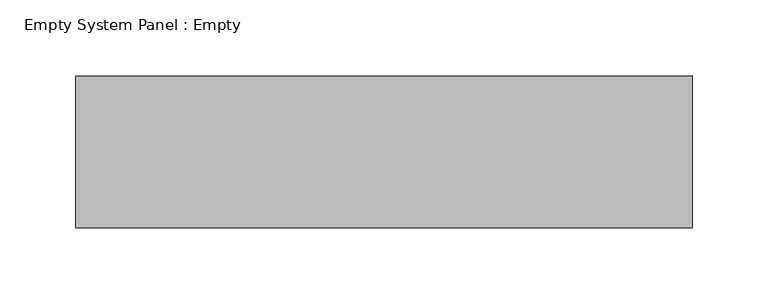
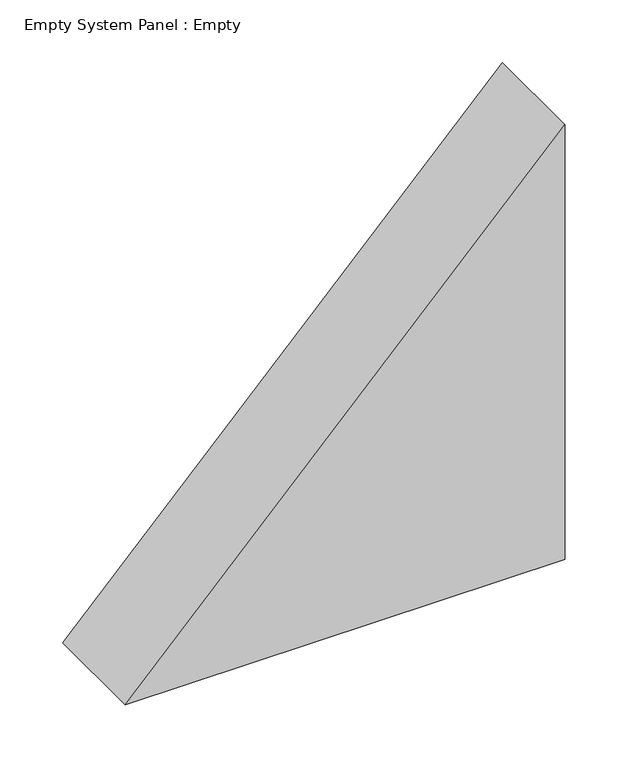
"""IFC4 building model written with IfcOpenShell, lengths in millimetres: plate geometry, Empty System Panel : Empty."""

from ifc_helpers import new_model, si_unit, frame, origin, place, context, project, spatial, polyline, outline, extrude, source, transform, mapped, element, save


def empty_system_panel_empty_8b1a6939(model_context):
    return source(origin(), model_context, "Body", "SweptSolid", [
        extrude(outline(polyline([(0.0, -202.8821652), (0.0, 202.8821652), (423.630398, 202.8821652), (0.0, -202.8821652)])), frame((0.0, -50.0, 0.0), z_axis=(0.0, 1.0, 0.0), x_axis=(0.0, 0.0, 1.0)), (0.0, 0.0, 1.0), 100.0),
    ])


if __name__ == "__main__":
    model = new_model("IFC4")
    model_context = context("Model", 3, world=origin())
    ifc_project = project(units=[si_unit("LENGTHUNIT", "METRE", prefix="MILLI")], contexts=[model_context])
    site = spatial("IfcSite", under=ifc_project)
    building = spatial("IfcBuilding", under=site)
    placement = place(None, origin())
    empty_system_panel_empty_shape = empty_system_panel_empty_8b1a6939(model_context)
    element("IfcPlate", 1, ObjectType="Empty System Panel : Empty", at=placement, inside=building, context=model_context, shape_type="MappedRepresentation", body=[
        mapped(empty_system_panel_empty_shape, transform((0.0, 0.0, 0.0), x_axis=(1.0, 0.0, 0.0), y_axis=(0.0, 1.0, 0.0), z_axis=(0.0, 0.0, 1.0))),
    ])
    save(model, "model.ifc")
